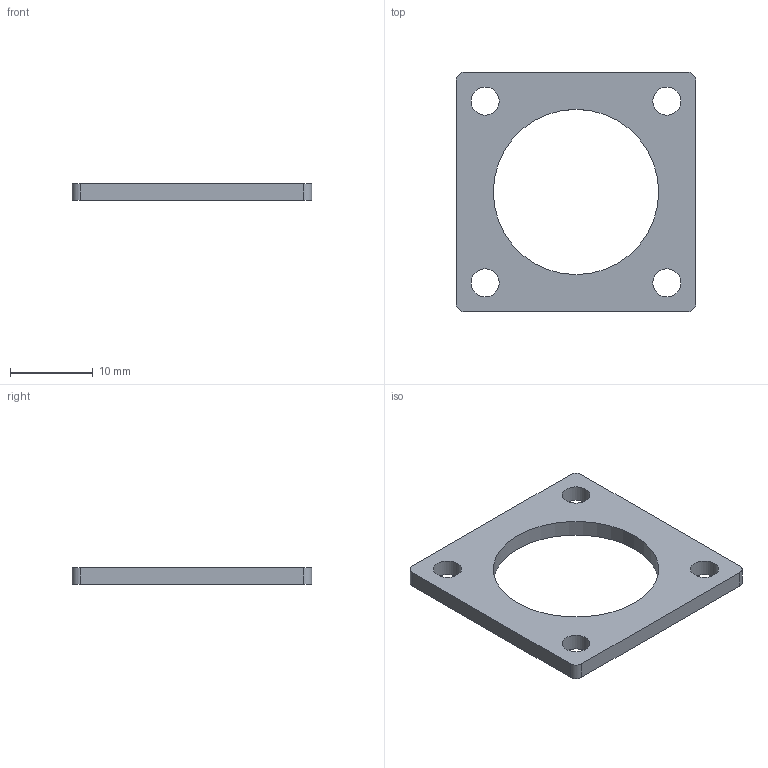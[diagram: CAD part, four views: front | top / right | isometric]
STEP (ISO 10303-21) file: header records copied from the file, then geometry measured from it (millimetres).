
FILE_DESCRIPTION (( 'STEP AP214' ), '1' );
FILE_NAME ('瑤脣.STEP', '2026-05-21T03:42:48', ( 'Windows User' ), ( 'P R C' ), 'SwSTEP 2.0', 'SolidWorks 2021', '' );
FILE_SCHEMA (( 'AUTOMOTIVE_DESIGN' ));
Length unit declared in the file: millimetre
Products named in the file (1): 瑤脣
Bounding box: 29 x 29 x 2 mm (x, y, z)
Volume: 979.3 mm3; surface area: 1419 mm2
Topology: 1 solids, 1 shells, 15 faces, 39 edges, 26 vertices
Faces by surface type: cylinder 9, plane 6
Full cylindrical faces by diameter (mm): 3.4 x4, 20 x1
Entity records: 500 total; most frequent: DIRECTION 84, CARTESIAN_POINT 76, ORIENTED_EDGE 68, EDGE_CURVE 34, AXIS2_PLACEMENT_3D 34, EDGE_LOOP 30, VERTEX_POINT 26, FACE_OUTER_BOUND 20
